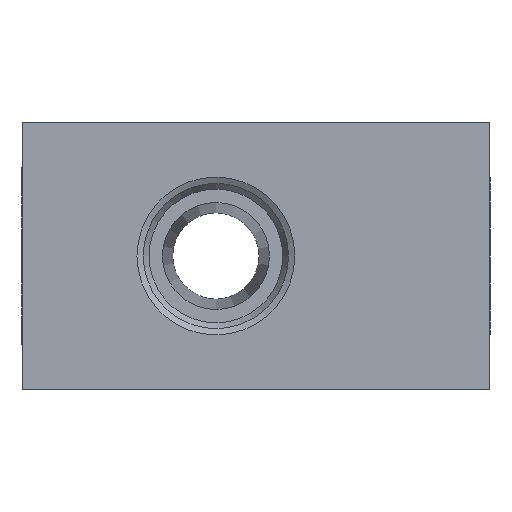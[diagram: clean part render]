
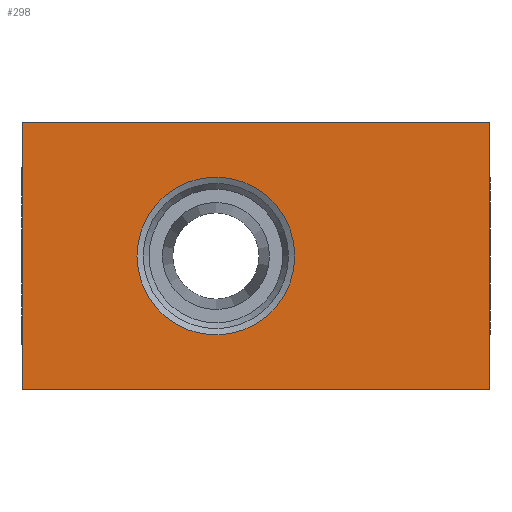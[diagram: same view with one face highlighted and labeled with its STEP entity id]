
A CAD part, left-side view. The second image highlights one B-rep face of the part: STEP entity #298.
In plain terms, the highlighted planar face has unit normal (-1, 0, 0).
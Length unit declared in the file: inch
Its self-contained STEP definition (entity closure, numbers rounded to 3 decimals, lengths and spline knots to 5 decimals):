
#26 = DIRECTION ( 'NONE',  ( 0., 0., 1. ) ) ;
#31 = PLANE ( 'NONE',  #106 ) ;
#42 = FACE_BOUND ( 'NONE', #1021, .T. ) ;
#43 = VERTEX_POINT ( 'NONE', #750 ) ;
#51 = CARTESIAN_POINT ( 'NONE',  ( -1.08268, -0.68898, 0.3937 ) ) ;
#53 = ORIENTED_EDGE ( 'NONE', *, *, #735, .T. ) ;
#99 = CARTESIAN_POINT ( 'NONE',  ( -1.08268, -0.68898, -0.3937 ) ) ;
#106 = AXIS2_PLACEMENT_3D ( 'NONE', #223, #121, #26 ) ;
#121 = DIRECTION ( 'NONE',  ( -1., 0., 0. ) ) ;
#138 = EDGE_LOOP ( 'NONE', ( #146, #557, #1060, #785 ) ) ;
#146 = ORIENTED_EDGE ( 'NONE', *, *, #1119, .T. ) ;
#180 = DIRECTION ( 'NONE',  ( 0., 1., 0. ) ) ;
#201 = LINE ( 'NONE', #99, #823 ) ;
#207 = DIRECTION ( 'NONE',  ( 0., -1., 0. ) ) ;
#211 = EDGE_CURVE ( 'NONE', #480, #251, #201, .T. ) ;
#216 = VECTOR ( 'NONE', #948, 39.37008 ) ;
#223 = CARTESIAN_POINT ( 'NONE',  ( -1.08268, 0., 0. ) ) ;
#230 = CARTESIAN_POINT ( 'NONE',  ( -1.08268, 0.68898, 0. ) ) ;
#251 = VERTEX_POINT ( 'NONE', #944 ) ;
#274 = CARTESIAN_POINT ( 'NONE',  ( -1.08268, -0.68898, 0.3937 ) ) ;
#298 = ADVANCED_FACE ( 'NONE', ( #845, #42 ), #31, .T. ) ;
#391 = EDGE_CURVE ( 'NONE', #939, #480, #1048, .T. ) ;
#441 = CARTESIAN_POINT ( 'NONE',  ( -1.08268, 0.68898, -0.3937 ) ) ;
#480 = VERTEX_POINT ( 'NONE', #441 ) ;
#557 = ORIENTED_EDGE ( 'NONE', *, *, #391, .T. ) ;
#634 = AXIS2_PLACEMENT_3D ( 'NONE', #740, #657, #843 ) ;
#657 = DIRECTION ( 'NONE',  ( 1., 0., 0. ) ) ;
#691 = VECTOR ( 'NONE', #776, 39.37008 ) ;
#735 = EDGE_CURVE ( 'NONE', #43, #43, #859, .T. ) ;
#740 = CARTESIAN_POINT ( 'NONE',  ( -1.08268, 0.11811, 0. ) ) ;
#750 = CARTESIAN_POINT ( 'NONE',  ( -1.08268, 0.11811, 0.23228 ) ) ;
#776 = DIRECTION ( 'NONE',  ( 0., 0., -1. ) ) ;
#779 = LINE ( 'NONE', #51, #216 ) ;
#785 = ORIENTED_EDGE ( 'NONE', *, *, #839, .T. ) ;
#823 = VECTOR ( 'NONE', #207, 39.37008 ) ;
#839 = EDGE_CURVE ( 'NONE', #251, #1150, #779, .T. ) ;
#843 = DIRECTION ( 'NONE',  ( 0., 0., 1. ) ) ;
#845 = FACE_OUTER_BOUND ( 'NONE', #138, .T. ) ;
#859 = CIRCLE ( 'NONE', #634, 0.23228 ) ;
#860 = VECTOR ( 'NONE', #180, 39.37008 ) ;
#918 = LINE ( 'NONE', #1095, #860 ) ;
#939 = VERTEX_POINT ( 'NONE', #974 ) ;
#944 = CARTESIAN_POINT ( 'NONE',  ( -1.08268, -0.68898, -0.3937 ) ) ;
#948 = DIRECTION ( 'NONE',  ( 0., 0., 1. ) ) ;
#974 = CARTESIAN_POINT ( 'NONE',  ( -1.08268, 0.68898, 0.3937 ) ) ;
#1021 = EDGE_LOOP ( 'NONE', ( #53 ) ) ;
#1048 = LINE ( 'NONE', #230, #691 ) ;
#1060 = ORIENTED_EDGE ( 'NONE', *, *, #211, .T. ) ;
#1095 = CARTESIAN_POINT ( 'NONE',  ( -1.08268, 0., 0.3937 ) ) ;
#1119 = EDGE_CURVE ( 'NONE', #1150, #939, #918, .T. ) ;
#1150 = VERTEX_POINT ( 'NONE', #274 ) ;
